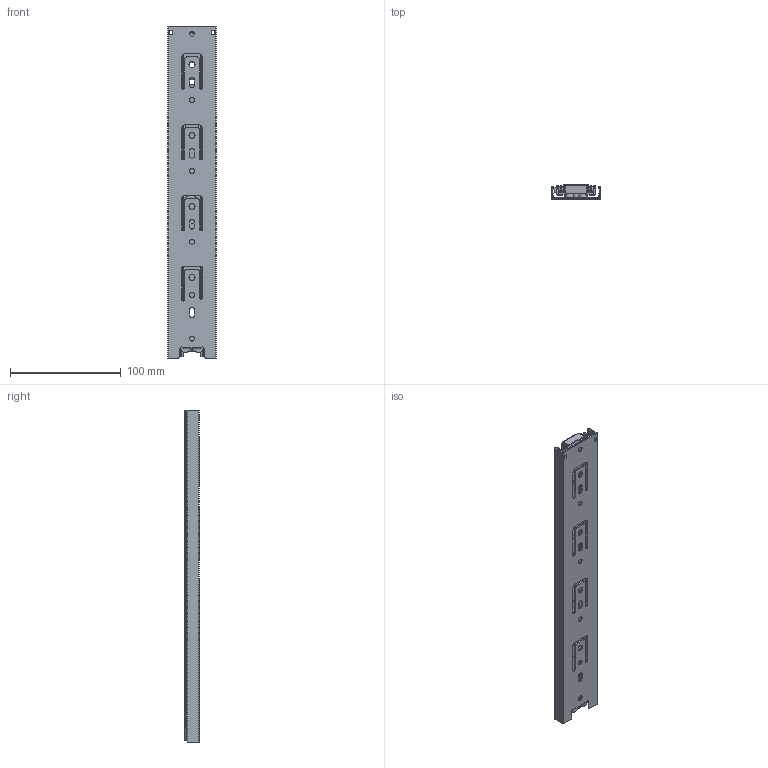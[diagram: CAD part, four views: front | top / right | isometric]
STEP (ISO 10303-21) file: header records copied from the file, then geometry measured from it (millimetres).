
FILE_DESCRIPTION(/* description */ (''),/* implementation_level */ '2;1');
FILE_NAME(/* name */ 'C:\Users\dmitruk\Documents\WORK\\X2\041D0410041F042004100412041B042F042E042904180415\X0\\Шариковые\h45 L-300 AKS.stp',/* time_stamp */ '2022-04-19T17:32:31+03:00',/* author */ ('dmitruk'),/* organization */ ('AKS'),/* preprocessor_version */ 'ST-DEVELOPER v16.5',/* originating_system */ 'Autodesk Inventor 2017',/* authorisation */ '');
FILE_SCHEMA (('AUTOMOTIVE_DESIGN { 1 0 10303 214 3 1 1 }'));
Length unit declared in the file: millimetre
Products named in the file (5): h45 L-300 AKS; h45 L-300 AKS_11; h45 L-300 AKS_12; h45 L-250_13; h45 L-300 AKS_2
Assembly tree (4 placements, depth 2):
  h45 L-300 AKS
    h45 L-300 AKS_11
    h45 L-300 AKS_12
    h45 L-250_13
    h45 L-300 AKS_2
Bounding box: 44 x 13 x 300 mm (x, y, z)
Volume: 46645.7 mm3; surface area: 92113.9 mm2
Topology: 4 solids, 4 shells, 589 faces, 1715 edges, 1120 vertices
Faces by surface type: plane 334, cylinder 223, sphere 32
Full cylindrical faces by diameter (mm): 4.5 x9, 5.5 x4
Entity records: 19952 total; most frequent: CARTESIAN_POINT 3610, DIRECTION 3403, ORIENTED_EDGE 3402, EDGE_CURVE 1701, LINE 1155, VECTOR 1155, AXIS2_PLACEMENT_3D 1124, VERTEX_POINT 1119
